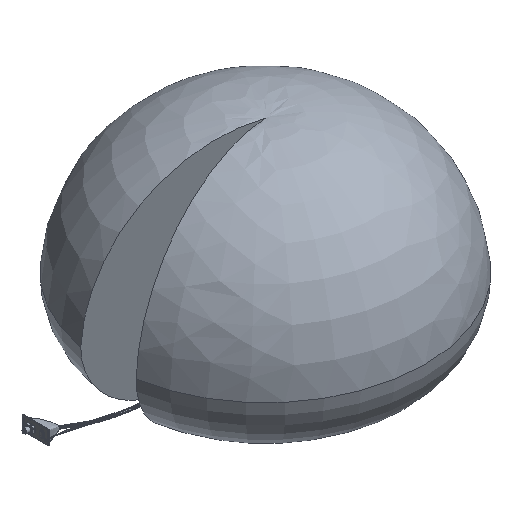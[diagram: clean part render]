
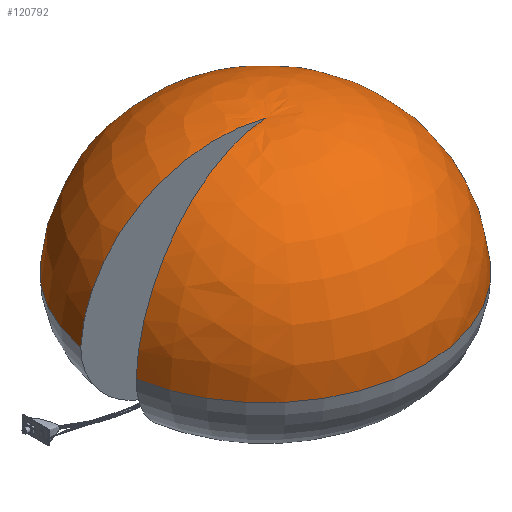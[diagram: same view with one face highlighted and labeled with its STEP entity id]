
A CAD part, isometric view. The second image highlights one B-rep face of the part: STEP entity #120792.
In plain terms, the highlighted free-form (B-spline) face has degree [2, 2] with [5, 9] control points.
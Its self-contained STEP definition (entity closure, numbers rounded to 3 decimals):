
#290=(
BOUNDED_SURFACE()
B_SPLINE_SURFACE(2,2,((#269175,#269176,#269177,#269178,#269179,#269180,
#269181,#269182,#269183),(#269184,#269185,#269186,#269187,#269188,#269189,
#269190,#269191,#269192),(#269193,#269194,#269195,#269196,#269197,#269198,
#269199,#269200,#269201),(#269202,#269203,#269204,#269205,#269206,#269207,
#269208,#269209,#269210),(#269211,#269212,#269213,#269214,#269215,#269216,
#269217,#269218,#269219)),.UNSPECIFIED.,.F.,.F.,.F.)
B_SPLINE_SURFACE_WITH_KNOTS((3,2,3),(3,2,2,2,3),(0.045,0.873,
1.7),(-2.967,-1.484,0.,
1.484,2.967),.UNSPECIFIED.)
GEOMETRIC_REPRESENTATION_ITEM()
RATIONAL_B_SPLINE_SURFACE(((1.,0.737,1.,0.737,1.,
0.737,1.,0.737,1.),(0.916,0.675,
0.916,0.675,0.916,0.675,
0.916,0.675,0.916),(1.,0.737,
1.,0.737,1.,0.737,1.,0.737,1.),(0.916,
0.675,0.916,0.675,0.916,
0.675,0.916,0.675,0.916),
(1.,0.737,1.,0.737,1.,0.737,1.,0.737,
1.)))
REPRESENTATION_ITEM('')
SURFACE()
);
#10009=CIRCLE('',#131268,2794.);
#10016=CIRCLE('',#131275,2476.489);
#10017=CIRCLE('',#131276,2476.489);
#17361=FACE_OUTER_BOUND('',#25352,.T.);
#25352=EDGE_LOOP('',(#102294,#102295,#102296));
#55752=VERTEX_POINT('',#269090);
#55753=VERTEX_POINT('',#269092);
#55757=VERTEX_POINT('',#269220);
#71615=EDGE_CURVE('',#55753,#55752,#10009,.T.);
#71622=EDGE_CURVE('',#55757,#55752,#10016,.T.);
#71623=EDGE_CURVE('',#55757,#55753,#10017,.T.);
#102294=ORIENTED_EDGE('',*,*,#71615,.T.);
#102295=ORIENTED_EDGE('',*,*,#71622,.F.);
#102296=ORIENTED_EDGE('',*,*,#71623,.T.);
#120792=ADVANCED_FACE('',(#17361),#290,.F.);
#131268=AXIS2_PLACEMENT_3D('',#269093,#159105,#159106);
#131275=AXIS2_PLACEMENT_3D('',#269221,#159119,#159120);
#131276=AXIS2_PLACEMENT_3D('',#269222,#159121,#159122);
#159105=DIRECTION('center_axis',(0.,0.,1.));
#159106=DIRECTION('ref_axis',(1.,0.,0.));
#159119=DIRECTION('center_axis',(-0.174,-0.985,
0.));
#159120=DIRECTION('ref_axis',(0.,0.,-1.));
#159121=DIRECTION('center_axis',(0.174,-0.985,0.));
#159122=DIRECTION('ref_axis',(0.,0.,-1.));
#269090=CARTESIAN_POINT('',(-2751.553,485.173,891.));
#269092=CARTESIAN_POINT('',(-2751.553,-485.173,891.));
#269093=CARTESIAN_POINT('Origin',(0.,0.,891.));
#269175=CARTESIAN_POINT('Ctrl Pts',(-2751.553,-485.173,
891.));
#269176=CARTESIAN_POINT('Ctrl Pts',(-2306.974,-3006.507,
891.));
#269177=CARTESIAN_POINT('Ctrl Pts',(243.513,-2783.368,
891.));
#269178=CARTESIAN_POINT('Ctrl Pts',(2794.,-2560.229,891.));
#269179=CARTESIAN_POINT('Ctrl Pts',(2794.,0.,891.));
#269180=CARTESIAN_POINT('Ctrl Pts',(2794.,2560.229,891.));
#269181=CARTESIAN_POINT('Ctrl Pts',(243.513,2783.368,891.));
#269182=CARTESIAN_POINT('Ctrl Pts',(-2306.974,3006.507,891.));
#269183=CARTESIAN_POINT('Ctrl Pts',(-2751.553,485.173,
891.));
#269184=CARTESIAN_POINT('Ctrl Pts',(-2703.536,-476.706,
1977.722));
#269185=CARTESIAN_POINT('Ctrl Pts',(-2266.715,-2954.041,
1977.722));
#269186=CARTESIAN_POINT('Ctrl Pts',(239.264,-2734.796,
1977.722));
#269187=CARTESIAN_POINT('Ctrl Pts',(2745.242,-2515.551,1977.722));
#269188=CARTESIAN_POINT('Ctrl Pts',(2745.242,0.,1977.722));
#269189=CARTESIAN_POINT('Ctrl Pts',(2745.242,2515.551,1977.722));
#269190=CARTESIAN_POINT('Ctrl Pts',(239.264,2734.796,1977.722));
#269191=CARTESIAN_POINT('Ctrl Pts',(-2266.715,2954.041,
1977.722));
#269192=CARTESIAN_POINT('Ctrl Pts',(-2703.536,476.706,1977.722));
#269193=CARTESIAN_POINT('Ctrl Pts',(-1882.922,-332.01,
2677.006));
#269194=CARTESIAN_POINT('Ctrl Pts',(-1578.691,-2057.39,
2677.006));
#269195=CARTESIAN_POINT('Ctrl Pts',(166.639,-1904.693,
2677.006));
#269196=CARTESIAN_POINT('Ctrl Pts',(1911.969,-1751.997,
2677.006));
#269197=CARTESIAN_POINT('Ctrl Pts',(1911.969,0.,2677.006));
#269198=CARTESIAN_POINT('Ctrl Pts',(1911.969,1751.997,2677.006));
#269199=CARTESIAN_POINT('Ctrl Pts',(166.639,1904.693,2677.006));
#269200=CARTESIAN_POINT('Ctrl Pts',(-1578.691,2057.39,
2677.006));
#269201=CARTESIAN_POINT('Ctrl Pts',(-1882.922,332.01,
2677.006));
#269202=CARTESIAN_POINT('Ctrl Pts',(-1062.308,-187.314,
3376.29));
#269203=CARTESIAN_POINT('Ctrl Pts',(-890.667,-1160.739,
3376.29));
#269204=CARTESIAN_POINT('Ctrl Pts',(94.015,-1074.591,3376.29));
#269205=CARTESIAN_POINT('Ctrl Pts',(1078.696,-988.443,
3376.29));
#269206=CARTESIAN_POINT('Ctrl Pts',(1078.696,0.,3376.29));
#269207=CARTESIAN_POINT('Ctrl Pts',(1078.696,988.443,3376.29));
#269208=CARTESIAN_POINT('Ctrl Pts',(94.015,1074.591,3376.29));
#269209=CARTESIAN_POINT('Ctrl Pts',(-890.667,1160.739,
3376.29));
#269210=CARTESIAN_POINT('Ctrl Pts',(-1062.308,187.314,
3376.29));
#269211=CARTESIAN_POINT('Ctrl Pts',(0.,0.,
3235.727));
#269212=CARTESIAN_POINT('Ctrl Pts',(0.,0.,
3235.727));
#269213=CARTESIAN_POINT('Ctrl Pts',(0.,0.,
3235.727));
#269214=CARTESIAN_POINT('Ctrl Pts',(0.,0.,
3235.727));
#269215=CARTESIAN_POINT('Ctrl Pts',(0.,0.,3235.727));
#269216=CARTESIAN_POINT('Ctrl Pts',(0.,0.,
3235.727));
#269217=CARTESIAN_POINT('Ctrl Pts',(0.,0.,
3235.727));
#269218=CARTESIAN_POINT('Ctrl Pts',(0.,0.,
3235.727));
#269219=CARTESIAN_POINT('Ctrl Pts',(0.,0.,
3235.727));
#269220=CARTESIAN_POINT('',(0.,0.,3235.727));
#269221=CARTESIAN_POINT('Origin',(-315.138,55.567,780.));
#269222=CARTESIAN_POINT('Origin',(-315.138,-55.567,780.));
